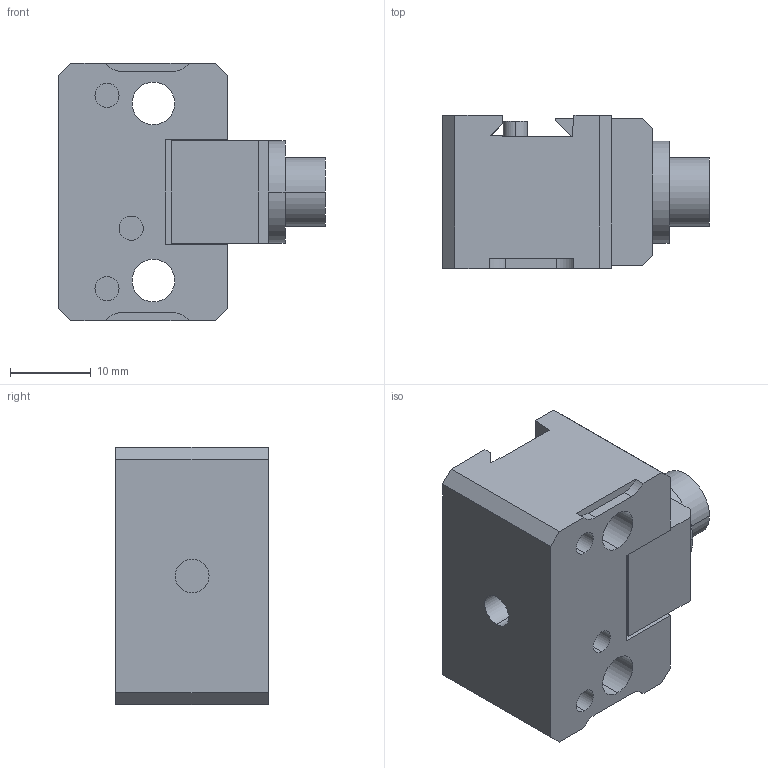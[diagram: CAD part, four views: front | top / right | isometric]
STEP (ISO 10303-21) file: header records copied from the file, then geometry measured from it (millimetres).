
FILE_DESCRIPTION (( 'STEP AP214' ), '1' );
FILE_NAME ('D_DM12.STEP', '2020-03-13T01:15:54', ( '' ), ( '' ), 'SwSTEP 2.0', 'SolidWorks 2018', '' );
FILE_SCHEMA (( 'AUTOMOTIVE_DESIGN' ));
Length unit declared in the file: millimetre
Products named in the file (4): D_DM12-3_91595A100; D_DM12-1_D051251WM; D_DM12-2_CLW10; D_DM12
Assembly tree (3 placements, depth 2):
  D_DM12
    D_DM12-1_D051251WM
    D_DM12-2_CLW10
    D_DM12-3_91595A100
Bounding box: 33.11 x 19 x 32 mm (x, y, z)
Volume: 11680.7 mm3; surface area: 6015.1 mm2
Topology: 3 solids, 3 shells, 90 faces, 229 edges, 152 vertices
Faces by surface type: plane 56, cylinder 34
Entity records: 2996 total; most frequent: CARTESIAN_POINT 489, DIRECTION 487, ORIENTED_EDGE 458, EDGE_CURVE 229, AXIS2_PLACEMENT_3D 166, LINE 155, VECTOR 155, VERTEX_POINT 152
